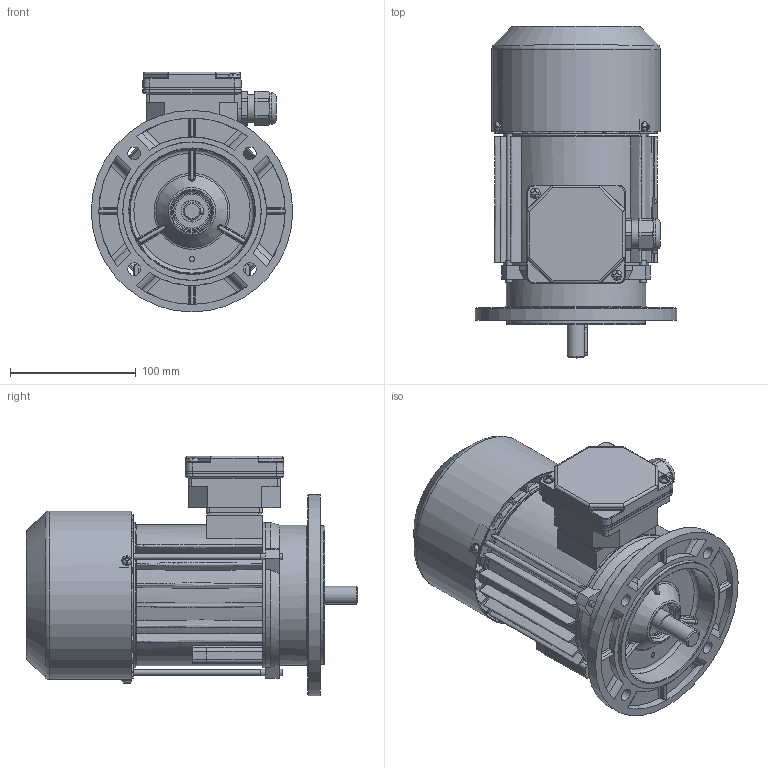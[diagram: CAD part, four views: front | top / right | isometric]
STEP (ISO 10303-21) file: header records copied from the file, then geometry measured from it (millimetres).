
FILE_DESCRIPTION( ( 'Unknown' ), '1' );
FILE_NAME( 'G:/Poczta Tk-1/STP/w.m.71/Sh71/SKh71-.C.stp', 'Unknown', ( 'K. Szlosek' ), ( 'BESEL S.A.' ), 'PSStep 17.0.49', 'Unknown', ' ' );
FILE_SCHEMA( ( 'AUTOMOTIVE_DESIGN { 1 0 10303 214 1 1 1 1 }' ) );
Length unit declared in the file: millimetre
Products named in the file (29): skrznka zaciskowa trójfazowa ; K4-2820 Uszczelka nr 2 Sh71,80; Dławnica M20x1,5; K2-0859 Podstawa skrzynki 6-cio zaciskowej; K2-0860 Pokrywka skrzynki zaciskowej; Assem1; K3-2975 Osłona przewietrznika Sh71-.B,C; K4-2320 Uszczelka nr 1 Sh71,80; K1-1194 Kadłub z zamkami Sh71-.C; K3-6469 Tarcza łożyskowa P S(E,M)h71-B,C; Wpust A5x5x25; Wkręt samogwintujący M4x8; Nitokołek A 2x6; k3-4489 Wał SKh71 x-2C1; Wkręt samogwintujący M4x16; K3-3984 Przewietrznik Sh71; K1-1244 Tarcza kołnierzowa B5 w.m. 71; Łożysko 6203; Śruba ściągająca E_M5x130; Tabliczka znamionowa 32x44
Assembly tree (44 placements, depth 3):
  Assem1
    K3-2975 Osłona przewietrznika Sh71-.B,C
    K4-2320 Uszczelka nr 1 Sh71,80
    K1-1194 Kadłub z zamkami Sh71-.C
    K3-6469 Tarcza łożyskowa P S(E,M)h71-B,C
    Wpust A5x5x25
    Wkręt samogwintujący M4x8  x3
    Nitokołek A 2x6  x2
    k3-4489 Wał SKh71 x-2C1
    Wkręt samogwintujący M4x16  x2
    K3-3984 Przewietrznik Sh71
    K1-1244 Tarcza kołnierzowa B5 w.m. 71
    Łożysko 6203  x2
    Łożysko 6203  x2
    Łożysko 6203  x2
    Łożysko 6203  x2
    Łożysko 6203  x2
    Łożysko 6203  x2
    Łożysko 6203  x2
    Łożysko 6203  x2
    Łożysko 6203  x2
    Łożysko 6203  x2
    Śruba ściągająca E_M5x130  x3
    Tabliczka znamionowa 32x44
    skrznka zaciskowa trójfazowa 
      K4-2820 Uszczelka nr 2 Sh71,80
      Dławnica M20x1,5
      K2-0859 Podstawa skrzynki 6-cio zaciskowej
      K2-0860 Pokrywka skrzynki zaciskowej
Bounding box: 160 x 263.5 x 190.5 mm (x, y, z)
Volume: 695708 mm3; surface area: 456486.2 mm2
Topology: 43 solids, 59 shells, 2307 faces, 6239 edges, 3990 vertices
Faces by surface type: plane 926, cylinder 682, bspline 343, torus 175, cone 141, sphere 40
Full cylindrical faces by diameter (mm): 2 x2, 2.4 x2, 3.7 x7, 3.8 x4, 4 x6, 4.2 x3, 4.5 x1, 4.6 x3, 4.8 x4, 5 x7, 5.5 x3, 7 x1, 8 x9, 10 x4, 14 x1, 15.9 x1, 16.1 x1, 16.5 x1, 17 x4, 17.4 x2, 18.376 x1, 18.38 x1, 20 x1, 22 x2, 22.3 x1, 22.5 x1, 23.1 x1, 24 x1, 24.498 x4, 25 x1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
Entity records: 136112 total; most frequent: CARTESIAN_POINT 67628, ORIENTED_EDGE 11014, DIRECTION 9855, EDGE_CURVE 5507, AXIS2_PLACEMENT_3D 3767, VERTEX_POINT 3664, EDGE_LOOP 2542, LINE 2321
